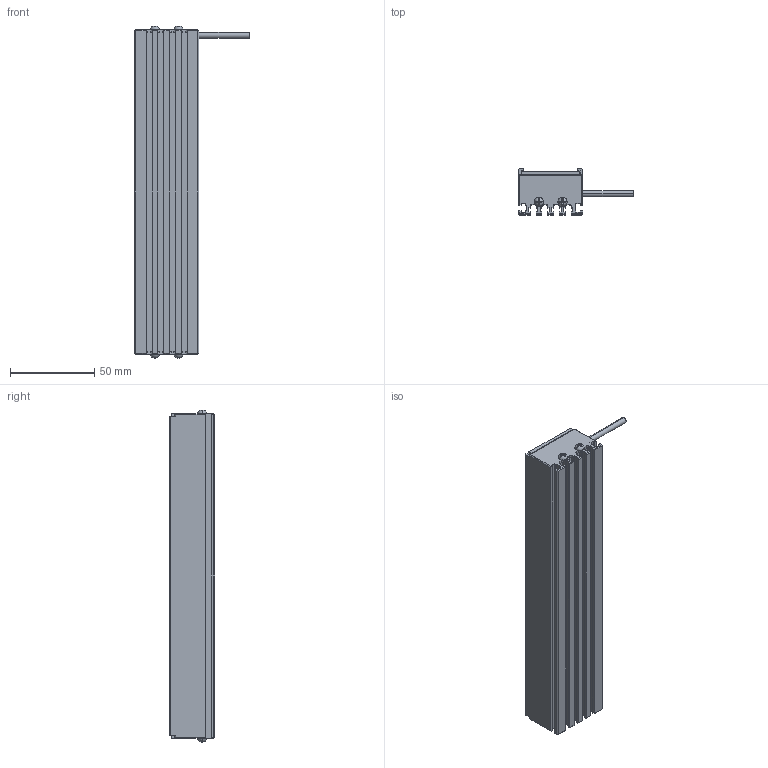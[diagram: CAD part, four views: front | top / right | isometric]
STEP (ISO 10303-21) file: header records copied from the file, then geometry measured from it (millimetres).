
FILE_DESCRIPTION((''),'2;1');
FILE_NAME('MV-LLDS-192-38_ASM','2020-12-29T',('Administrator'),(''),'PRO/ENGINEER BY PARAMETRIC TECHNOLOGY CORPORATION, 2010100','PRO/ENGINEER BY PARAMETRIC TECHNOLOGY CORPORATION, 2010100','');
FILE_SCHEMA(('CONFIG_CONTROL_DESIGN'));
Length unit declared in the file: millimetre
Products named in the file (3): BL-6_3_; PRT0002; MV-LLDS-192-38_ASM
Assembly tree (5 placements, depth 2):
  MV-LLDS-192-38_ASM
    BL-6_3_
    PRT0002  x4
Bounding box: 68 x 27 x 196.68 mm (x, y, z)
Volume: 160815.8 mm3; surface area: 48316.4 mm2
Topology: 5 solids, 13 shells, 349 faces, 934 edges, 604 vertices
Faces by surface type: plane 223, cylinder 78, cone 16, bspline 16, torus 8, sphere 8
Entity records: 8219 total; most frequent: CARTESIAN_POINT 1711, ORIENTED_EDGE 1338, DIRECTION 1310, EDGE_CURVE 679, VECTOR 514, LINE 514, VERTEX_POINT 445, AXIS2_PLACEMENT_3D 398
